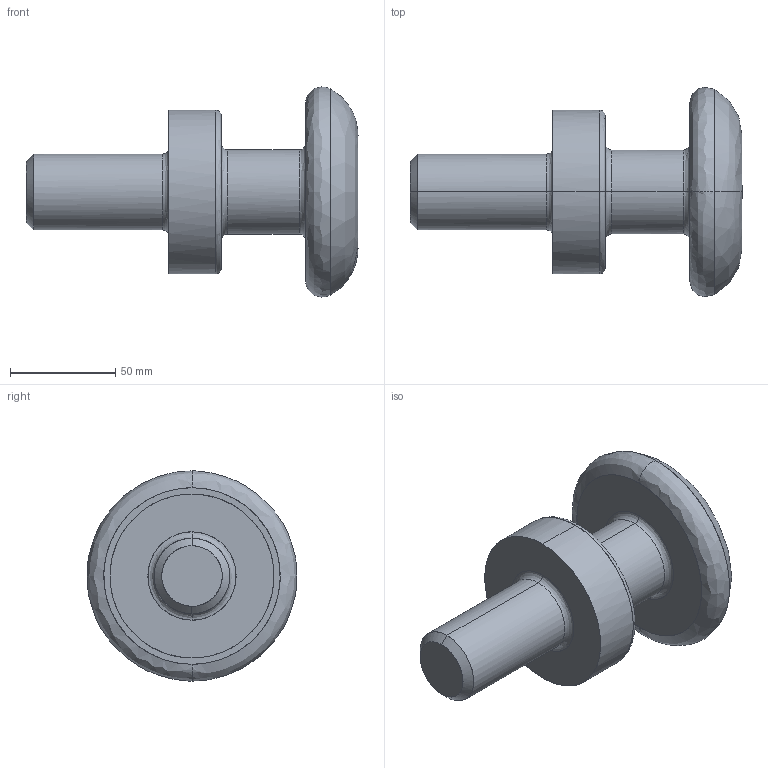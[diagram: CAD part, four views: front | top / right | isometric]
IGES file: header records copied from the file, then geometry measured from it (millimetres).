
Global section: file name: E:\UnigraphicsGraphicData\MISUMI_PRESS-PARTS\IGES\3d_chnl36_03543_r00.igs; native system: NX V5.0; preprocessor: UGS NX IGES V5.0; author: MISUMI; date: 20110105.160222; units: millimetre
Bounding box: 158 x 99.78 x 99.99 mm (x, y, z)
Surface area: 45985.6 mm2 (no closed solid volume)
Topology: 0 solids, 0 shells, 32 faces, 244 edges, 244 vertices
Faces by surface type: bspline 32
